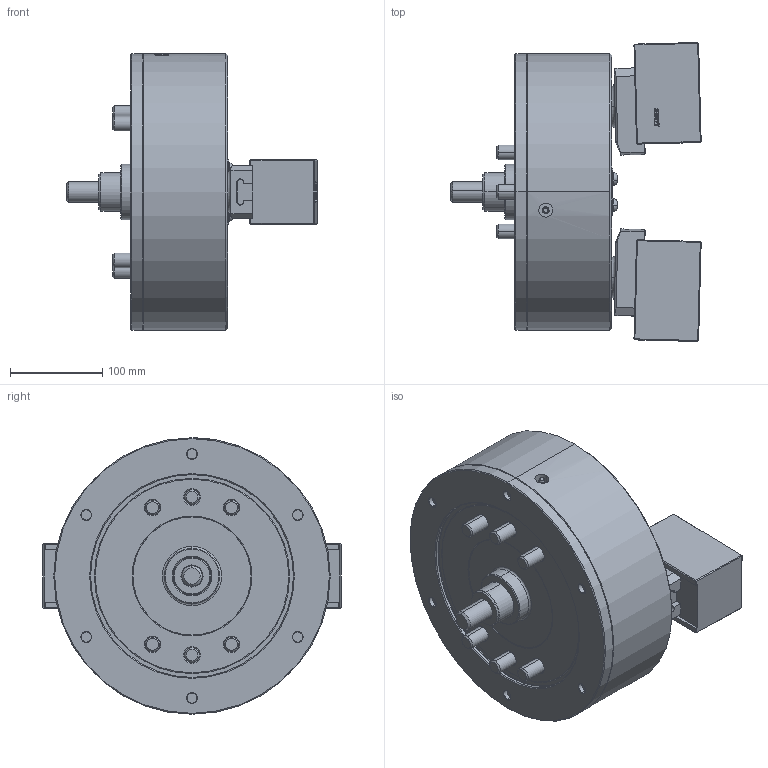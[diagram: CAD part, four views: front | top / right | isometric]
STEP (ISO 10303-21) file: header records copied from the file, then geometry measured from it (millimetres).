
FILE_DESCRIPTION (( 'STEP AP214' ), '1' );
FILE_NAME ('PWT12_OC_ID.STEP', '2019-10-23T00:04:12', ( '' ), ( '' ), 'SwSTEP 2.0', 'SolidWorks 2017', '' );
FILE_SCHEMA (( 'AUTOMOTIVE_DESIGN' ));
Length unit declared in the file: millimetre
Products named in the file (5): PWT12_OC_ID; 結合_ID; 0030116025; 61P332346; 61P420193
Assembly tree (9 placements, depth 2):
  PWT12_OC_ID
    61P420193  x2
    61P332346  x2
    0030116025  x4
    結合_ID
Bounding box: 271.64 x 324.4 x 300 mm (x, y, z)
Volume: 8453268.4 mm3; surface area: 522487.8 mm2
Topology: 9 solids, 10 shells, 1667 faces, 4082 edges, 2552 vertices
Faces by surface type: plane 879, cone 271, bspline 233, cylinder 230, torus 54
Entity records: 48724 total; most frequent: CARTESIAN_POINT 16900, ORIENTED_EDGE 6820, DIRECTION 5955, EDGE_CURVE 3410, VERTEX_POINT 2147, VECTOR 2013, LINE 2013, AXIS2_PLACEMENT_3D 1971
